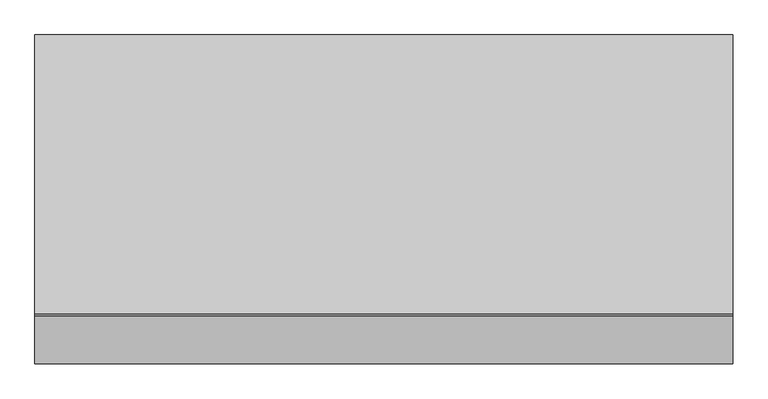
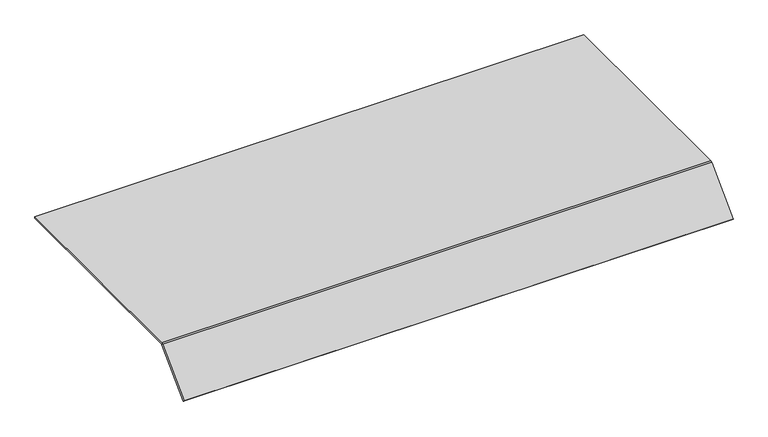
"""IFC4 building model written with IfcOpenShell, lengths in millimetres: proxy geometry, Electrical_Installation_Hager_Blank-Cover-800mm-Single-Sided-Height-70mm : Electrical_Installation_Hager_Blank-Cover-800mm-Single-Sided-Height-70mm."""

from ifc_helpers import new_model, si_unit, point, frame, frame_2d, origin, place, context, project, spatial, polyline, circle_curve, trimmed, segment, composite_curve, outline, extrude, source, transform, mapped, element, save


def electrical_fixtures_f480c002(model_context):
    return source(origin(), model_context, "Body", "SweptSolid", [
        extrude(outline(composite_curve([segment(polyline([(200.0, 40.5), (200.0, 37.5), (-199.8229541, 37.5)]), True, "CONTINUOUS"), segment(trimmed(circle_curve(frame_2d((-199.8229541, 36.0725733)), 1.4274267), [point((-199.8229541, 37.5))], [point((-200.8322972, 37.0819164))], True, "CARTESIAN"), True, "CONTINUOUS"), segment(polyline([(-200.8322972, 37.0819164), (-268.6627596, -30.7485461), (-270.78408, -28.6272257), (-202.8206472, 39.336207)]), True, "CONTINUOUS"), segment(trimmed(circle_curve(frame_2d((-200.0110025, 36.5265623)), 3.9734377), [point((-202.8206472, 39.336207))], [point((-200.0110025, 40.5))], False, "CARTESIAN"), True, "CONTINUOUS"), segment(polyline([(-200.0110025, 40.5), (200.0, 40.5)]), True, "CONTINUOUS")], self_intersect=False)), frame((0.0, 0.0, 0.0), z_axis=(1.0, 0.0, 0.0), x_axis=(0.0, 1.0, 0.0)), (0.0, 0.0, 1.0), 1000.0),
    ])


if __name__ == "__main__":
    model = new_model("IFC4")
    model_context = context("Model", 3, world=origin())
    ifc_project = project(units=[si_unit("LENGTHUNIT", "METRE", prefix="MILLI")], contexts=[model_context])
    site = spatial("IfcSite", under=ifc_project)
    building = spatial("IfcBuilding", under=site)
    placement = place(None, origin())
    electrical_fixtures_shape = electrical_fixtures_f480c002(model_context)
    element("IfcBuildingElementProxy", 1, Name="Electrical_Installation_Hager_Blank-Cover-800mm-Single-Sided-Height-70mm : Electrical_Installation_Hager_Blank-Cover-800mm-Single-Sided-Height-70mm", ObjectType="Electrical_Installation_Hager_Blank-Cover-800mm-Single-Sided-Height-70mm : Electrical_Installation_Hager_Blank-Cover-800mm-Single-Sided-Height-70mm", at=placement, inside=building, context=model_context, shape_type="MappedRepresentation", body=[
        mapped(electrical_fixtures_shape, transform((0.0, 0.0, 0.0), x_axis=(1.0, 0.0, 0.0), y_axis=(0.0, 1.0, 0.0), z_axis=(0.0, 0.0, 1.0))),
    ])
    save(model, "model.ifc")
